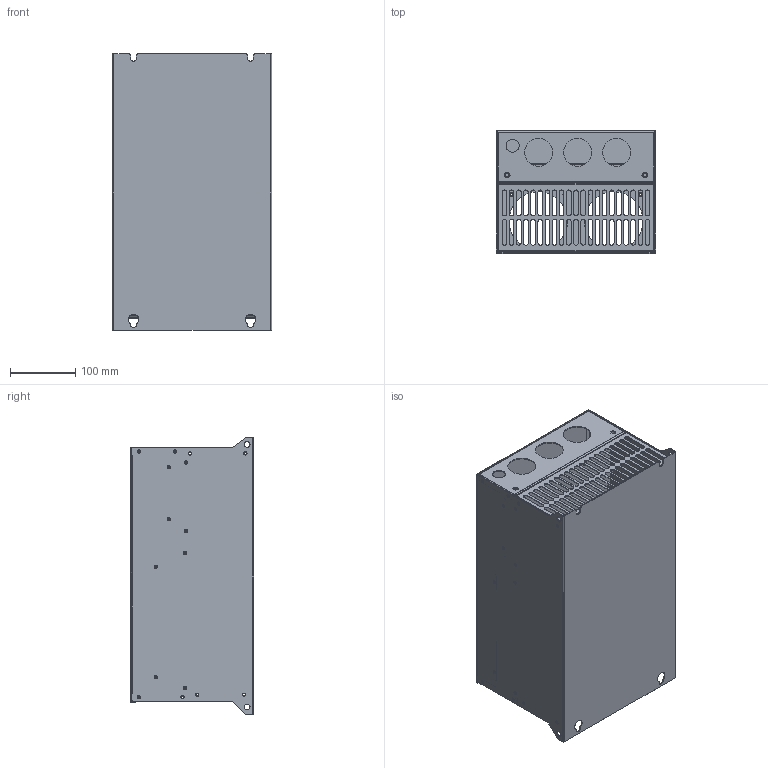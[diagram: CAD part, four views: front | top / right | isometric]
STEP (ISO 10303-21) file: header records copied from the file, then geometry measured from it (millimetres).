
FILE_DESCRIPTION((''),'2;1');
FILE_NAME('HD660-T-0370-B_ASM','2020-07-03T13:59:55',('Coco'),(''),'CREO PARAMETRIC BY PTC INC, 2020053','CREO PARAMETRIC BY PTC INC, 2020053','');
FILE_SCHEMA(('CONFIG_CONTROL_DESIGN'));
Length unit declared in the file: millimetre
Products named in the file (1): HD660-T-0370-B_ASM
Bounding box: 245 x 189.5 x 425 mm (x, y, z)
Volume: 158837.3 mm3; surface area: 964742.5 mm2
Topology: 15 solids, 19 shells, 1232 faces, 3081 edges, 1866 vertices
Faces by surface type: cylinder 598, plane 576, cone 48, bspline 10
Entity records: 37442 total; most frequent: DIRECTION 6759, CARTESIAN_POINT 6644, ORIENTED_EDGE 6134, EDGE_CURVE 3081, AXIS2_PLACEMENT_3D 2475, VERTEX_POINT 1866, VECTOR 1809, LINE 1809
